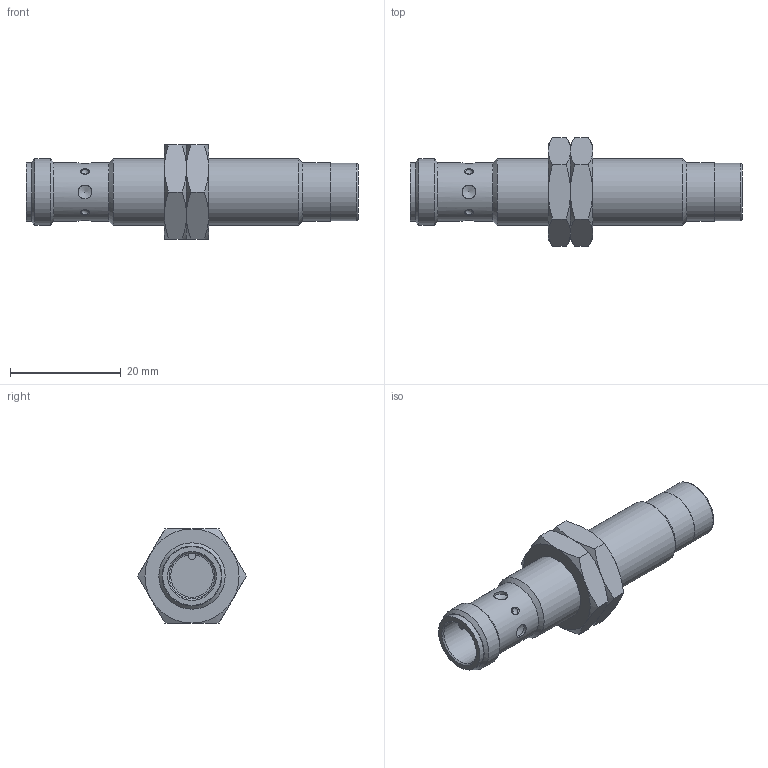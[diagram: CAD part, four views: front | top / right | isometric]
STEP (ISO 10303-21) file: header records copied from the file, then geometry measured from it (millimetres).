
FILE_DESCRIPTION( ( 'STEP AP203' ), ' ' );
FILE_NAME( 'p:/temp/worker_25/3740_4056/app_42_02016042012011586707634192d056f_000000_00_00_000000/format_2/IFS286.stp', '2016-04-20T10:01:19', ( '' ), ( '' ), ' ', 'PARTsolutions', ' ' );
FILE_SCHEMA( ( 'CONFIG_CONTROL_DESIGN' ) );
Length unit declared in the file: millimetre
Products named in the file (3): IFS286; _IFS286_part1; _IFS290_part2
Assembly tree (3 placements, depth 2):
  IFS286
    _IFS286_part1
    _IFS290_part2  x2
Bounding box: 60 x 19.63 x 17 mm (x, y, z)
Volume: 6925.7 mm3; surface area: 3918.1 mm2
Topology: 3 solids, 3 shells, 86 faces, 200 edges, 123 vertices
Faces by surface type: cone 37, plane 25, cylinder 14, torus 6, sphere 4
Full cylindrical faces by diameter (mm): 2.5 x4, 8.3 x1, 10.45 x1, 10.5 x1, 10.55 x1, 10.6 x1, 10.917 x2, 12 x2
Entity records: 1960 total; most frequent: CARTESIAN_POINT 662, DIRECTION 240, ORIENTED_EDGE 196, AXIS2_PLACEMENT_3D 113, EDGE_LOOP 101, EDGE_CURVE 98, VERTEX_POINT 83, FACE_OUTER_BOUND 80
